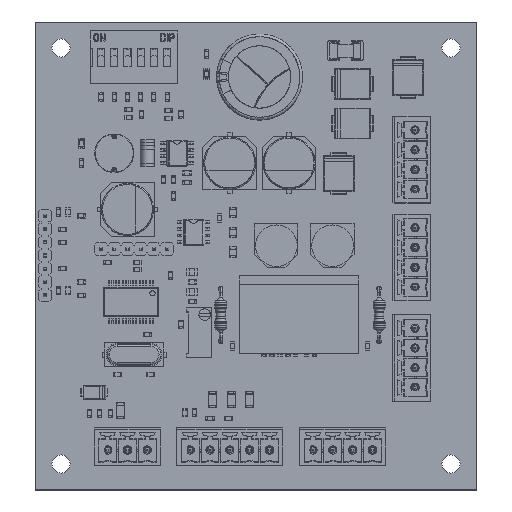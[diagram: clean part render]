
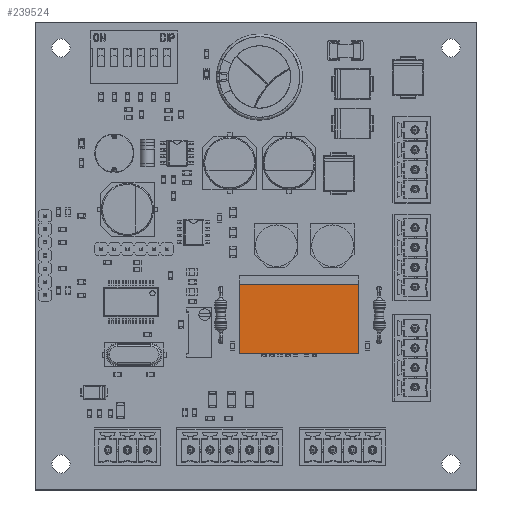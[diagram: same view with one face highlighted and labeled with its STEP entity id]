
A CAD part, top view. The second image highlights one B-rep face of the part: STEP entity #239524.
In plain terms, the highlighted planar face has unit normal (0, 0, 1).
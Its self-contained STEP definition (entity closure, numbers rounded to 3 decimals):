
#239210 = VERTEX_POINT('',#239211);
#239211 = CARTESIAN_POINT('',(-11.5,-7.5,1.6));
#239218 = PLANE('',#239219);
#239219 = AXIS2_PLACEMENT_3D('',#239220,#239221,#239222);
#239220 = CARTESIAN_POINT('',(-11.5,-7.5,0.));
#239221 = DIRECTION('',(-1.,0.,0.));
#239222 = DIRECTION('',(0.,1.,0.));
#239230 = PLANE('',#239231);
#239231 = AXIS2_PLACEMENT_3D('',#239232,#239233,#239234);
#239232 = CARTESIAN_POINT('',(11.5,-7.5,0.));
#239233 = DIRECTION('',(0.,-1.,0.));
#239234 = DIRECTION('',(-1.,0.,0.));
#239242 = EDGE_CURVE('',#239210,#239243,#239245,.T.);
#239243 = VERTEX_POINT('',#239244);
#239244 = CARTESIAN_POINT('',(-11.5,7.5,1.6));
#239245 = SURFACE_CURVE('',#239246,(#239250,#239257),.PCURVE_S1.);
#239246 = LINE('',#239247,#239248);
#239247 = CARTESIAN_POINT('',(-11.5,-7.5,1.6));
#239248 = VECTOR('',#239249,1.);
#239249 = DIRECTION('',(0.,1.,0.));
#239250 = PCURVE('',#239218,#239251);
#239251 = DEFINITIONAL_REPRESENTATION('',(#239252),#239256);
#239252 = LINE('',#239253,#239254);
#239253 = CARTESIAN_POINT('',(0.,-1.6));
#239254 = VECTOR('',#239255,1.);
#239255 = DIRECTION('',(1.,0.));
#239256 = ( GEOMETRIC_REPRESENTATION_CONTEXT(2) 
PARAMETRIC_REPRESENTATION_CONTEXT() REPRESENTATION_CONTEXT('2D SPACE',''
  ) );
#239257 = PCURVE('',#239258,#239263);
#239258 = PLANE('',#239259);
#239259 = AXIS2_PLACEMENT_3D('',#239260,#239261,#239262);
#239260 = CARTESIAN_POINT('',(-11.5,-7.5,1.6));
#239261 = DIRECTION('',(0.,0.,1.));
#239262 = DIRECTION('',(1.,0.,0.));
#239263 = DEFINITIONAL_REPRESENTATION('',(#239264),#239268);
#239264 = LINE('',#239265,#239266);
#239265 = CARTESIAN_POINT('',(0.,0.));
#239266 = VECTOR('',#239267,1.);
#239267 = DIRECTION('',(0.,1.));
#239268 = ( GEOMETRIC_REPRESENTATION_CONTEXT(2) 
PARAMETRIC_REPRESENTATION_CONTEXT() REPRESENTATION_CONTEXT('2D SPACE',''
  ) );
#239286 = PLANE('',#239287);
#239287 = AXIS2_PLACEMENT_3D('',#239288,#239289,#239290);
#239288 = CARTESIAN_POINT('',(-11.5,7.5,0.));
#239289 = DIRECTION('',(0.,1.,0.));
#239290 = DIRECTION('',(1.,0.,0.));
#239328 = EDGE_CURVE('',#239243,#239329,#239331,.T.);
#239329 = VERTEX_POINT('',#239330);
#239330 = CARTESIAN_POINT('',(11.5,7.5,1.6));
#239331 = SURFACE_CURVE('',#239332,(#239336,#239343),.PCURVE_S1.);
#239332 = LINE('',#239333,#239334);
#239333 = CARTESIAN_POINT('',(-11.5,7.5,1.6));
#239334 = VECTOR('',#239335,1.);
#239335 = DIRECTION('',(1.,0.,0.));
#239336 = PCURVE('',#239286,#239337);
#239337 = DEFINITIONAL_REPRESENTATION('',(#239338),#239342);
#239338 = LINE('',#239339,#239340);
#239339 = CARTESIAN_POINT('',(0.,-1.6));
#239340 = VECTOR('',#239341,1.);
#239341 = DIRECTION('',(1.,0.));
#239342 = ( GEOMETRIC_REPRESENTATION_CONTEXT(2) 
PARAMETRIC_REPRESENTATION_CONTEXT() REPRESENTATION_CONTEXT('2D SPACE',''
  ) );
#239343 = PCURVE('',#239258,#239344);
#239344 = DEFINITIONAL_REPRESENTATION('',(#239345),#239349);
#239345 = LINE('',#239346,#239347);
#239346 = CARTESIAN_POINT('',(0.,15.));
#239347 = VECTOR('',#239348,1.);
#239348 = DIRECTION('',(1.,0.));
#239349 = ( GEOMETRIC_REPRESENTATION_CONTEXT(2) 
PARAMETRIC_REPRESENTATION_CONTEXT() REPRESENTATION_CONTEXT('2D SPACE',''
  ) );
#239367 = PLANE('',#239368);
#239368 = AXIS2_PLACEMENT_3D('',#239369,#239370,#239371);
#239369 = CARTESIAN_POINT('',(11.5,7.5,0.));
#239370 = DIRECTION('',(1.,0.,0.));
#239371 = DIRECTION('',(0.,-1.,0.));
#239404 = EDGE_CURVE('',#239329,#239405,#239407,.T.);
#239405 = VERTEX_POINT('',#239406);
#239406 = CARTESIAN_POINT('',(11.5,-7.5,1.6));
#239407 = SURFACE_CURVE('',#239408,(#239412,#239419),.PCURVE_S1.);
#239408 = LINE('',#239409,#239410);
#239409 = CARTESIAN_POINT('',(11.5,7.5,1.6));
#239410 = VECTOR('',#239411,1.);
#239411 = DIRECTION('',(0.,-1.,0.));
#239412 = PCURVE('',#239367,#239413);
#239413 = DEFINITIONAL_REPRESENTATION('',(#239414),#239418);
#239414 = LINE('',#239415,#239416);
#239415 = CARTESIAN_POINT('',(0.,-1.6));
#239416 = VECTOR('',#239417,1.);
#239417 = DIRECTION('',(1.,0.));
#239418 = ( GEOMETRIC_REPRESENTATION_CONTEXT(2) 
PARAMETRIC_REPRESENTATION_CONTEXT() REPRESENTATION_CONTEXT('2D SPACE',''
  ) );
#239419 = PCURVE('',#239258,#239420);
#239420 = DEFINITIONAL_REPRESENTATION('',(#239421),#239425);
#239421 = LINE('',#239422,#239423);
#239422 = CARTESIAN_POINT('',(23.,15.));
#239423 = VECTOR('',#239424,1.);
#239424 = DIRECTION('',(0.,-1.));
#239425 = ( GEOMETRIC_REPRESENTATION_CONTEXT(2) 
PARAMETRIC_REPRESENTATION_CONTEXT() REPRESENTATION_CONTEXT('2D SPACE',''
  ) );
#239475 = EDGE_CURVE('',#239405,#239210,#239476,.T.);
#239476 = SURFACE_CURVE('',#239477,(#239481,#239488),.PCURVE_S1.);
#239477 = LINE('',#239478,#239479);
#239478 = CARTESIAN_POINT('',(11.5,-7.5,1.6));
#239479 = VECTOR('',#239480,1.);
#239480 = DIRECTION('',(-1.,0.,0.));
#239481 = PCURVE('',#239230,#239482);
#239482 = DEFINITIONAL_REPRESENTATION('',(#239483),#239487);
#239483 = LINE('',#239484,#239485);
#239484 = CARTESIAN_POINT('',(0.,-1.6));
#239485 = VECTOR('',#239486,1.);
#239486 = DIRECTION('',(1.,0.));
#239487 = ( GEOMETRIC_REPRESENTATION_CONTEXT(2) 
PARAMETRIC_REPRESENTATION_CONTEXT() REPRESENTATION_CONTEXT('2D SPACE',''
  ) );
#239488 = PCURVE('',#239258,#239489);
#239489 = DEFINITIONAL_REPRESENTATION('',(#239490),#239494);
#239490 = LINE('',#239491,#239492);
#239491 = CARTESIAN_POINT('',(23.,0.));
#239492 = VECTOR('',#239493,1.);
#239493 = DIRECTION('',(-1.,0.));
#239494 = ( GEOMETRIC_REPRESENTATION_CONTEXT(2) 
PARAMETRIC_REPRESENTATION_CONTEXT() REPRESENTATION_CONTEXT('2D SPACE',''
  ) );
#239524 = ADVANCED_FACE('',(#239525),#239258,.T.);
#239525 = FACE_BOUND('',#239526,.F.);
#239526 = EDGE_LOOP('',(#239527,#239528,#239529,#239530));
#239527 = ORIENTED_EDGE('',*,*,#239242,.T.);
#239528 = ORIENTED_EDGE('',*,*,#239328,.T.);
#239529 = ORIENTED_EDGE('',*,*,#239404,.T.);
#239530 = ORIENTED_EDGE('',*,*,#239475,.T.);
